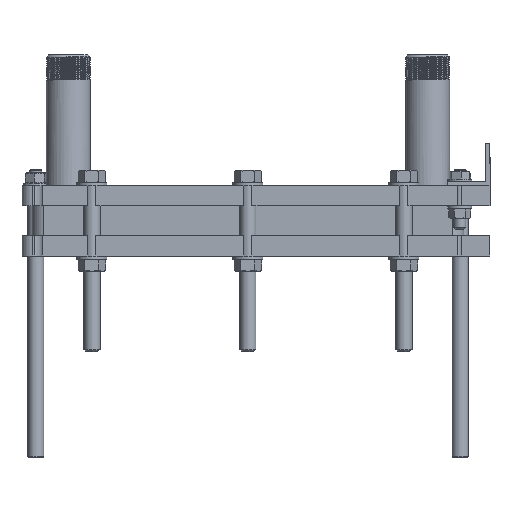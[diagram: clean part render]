
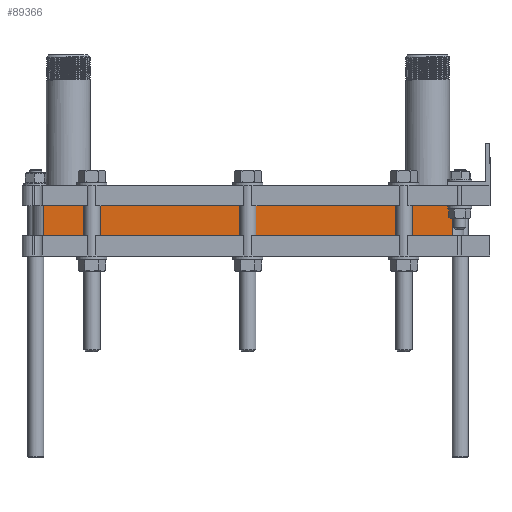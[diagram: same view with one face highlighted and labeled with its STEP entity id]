
A CAD part, left-side view. The second image highlights one B-rep face of the part: STEP entity #89366.
In plain terms, the highlighted planar face has unit normal (-1, 0, 0).
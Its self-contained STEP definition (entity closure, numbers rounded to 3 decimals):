
#3736 = ORIENTED_EDGE ( 'NONE', *, *, #21506, .F. ) ;
#3807 = PLANE ( 'NONE',  #88270 ) ;
#4817 = DIRECTION ( 'NONE',  ( -1., 0., 0. ) ) ;
#5393 = VERTEX_POINT ( 'NONE', #82240 ) ;
#5777 = ORIENTED_EDGE ( 'NONE', *, *, #88930, .F. ) ;
#11909 = DIRECTION ( 'NONE',  ( 0., 1., 0. ) ) ;
#12008 = LINE ( 'NONE', #85194, #48173 ) ;
#21506 = EDGE_CURVE ( 'NONE', #5393, #38531, #12008, .T. ) ;
#27205 = LINE ( 'NONE', #79196, #90140 ) ;
#28318 = VECTOR ( 'NONE', #31458, 1000. ) ;
#30780 = LINE ( 'NONE', #79029, #28318 ) ;
#31458 = DIRECTION ( 'NONE',  ( 0., 0., -1. ) ) ;
#38531 = VERTEX_POINT ( 'NONE', #65307 ) ;
#44943 = VERTEX_POINT ( 'NONE', #55313 ) ;
#45429 = CARTESIAN_POINT ( 'NONE',  ( 26.5, 37.159, -62. ) ) ;
#48173 = VECTOR ( 'NONE', #55501, 1000. ) ;
#50116 = FACE_OUTER_BOUND ( 'NONE', #85073, .T. ) ;
#52171 = VECTOR ( 'NONE', #93801, 1000. ) ;
#54629 = LINE ( 'NONE', #86006, #52171 ) ;
#55313 = CARTESIAN_POINT ( 'NONE',  ( 26.5, 443.841, -62. ) ) ;
#55501 = DIRECTION ( 'NONE',  ( 0., 1., 0. ) ) ;
#57777 = CARTESIAN_POINT ( 'NONE',  ( 26.5, 37.159, -62. ) ) ;
#60673 = EDGE_CURVE ( 'NONE', #44943, #38531, #30780, .T. ) ;
#62731 = EDGE_CURVE ( 'NONE', #44943, #67258, #54629, .T. ) ;
#65307 = CARTESIAN_POINT ( 'NONE',  ( 26.5, 443.841, -92. ) ) ;
#67258 = VERTEX_POINT ( 'NONE', #45429 ) ;
#79029 = CARTESIAN_POINT ( 'NONE',  ( 26.5, 443.841, -62. ) ) ;
#79196 = CARTESIAN_POINT ( 'NONE',  ( 26.5, 37.159, -62. ) ) ;
#79869 = DIRECTION ( 'NONE',  ( 0., 0., -1. ) ) ;
#82240 = CARTESIAN_POINT ( 'NONE',  ( 26.5, 37.159, -92. ) ) ;
#85073 = EDGE_LOOP ( 'NONE', ( #86322, #91534, #3736, #5777 ) ) ;
#85194 = CARTESIAN_POINT ( 'NONE',  ( 26.5, 240.5, -92. ) ) ;
#86006 = CARTESIAN_POINT ( 'NONE',  ( 26.5, 240.5, -62. ) ) ;
#86322 = ORIENTED_EDGE ( 'NONE', *, *, #62731, .F. ) ;
#88270 = AXIS2_PLACEMENT_3D ( 'NONE', #57777, #4817, #11909 ) ;
#88930 = EDGE_CURVE ( 'NONE', #67258, #5393, #27205, .T. ) ;
#89366 = ADVANCED_FACE ( 'NONE', ( #50116 ), #3807, .T. ) ;
#90140 = VECTOR ( 'NONE', #79869, 1000. ) ;
#91534 = ORIENTED_EDGE ( 'NONE', *, *, #60673, .T. ) ;
#93801 = DIRECTION ( 'NONE',  ( 0., -1., 0. ) ) ;
